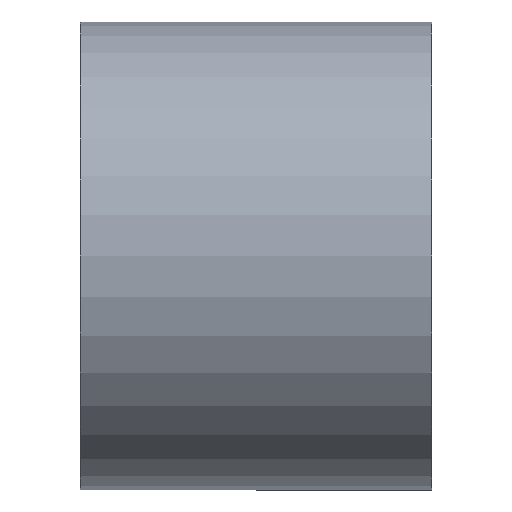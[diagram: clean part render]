
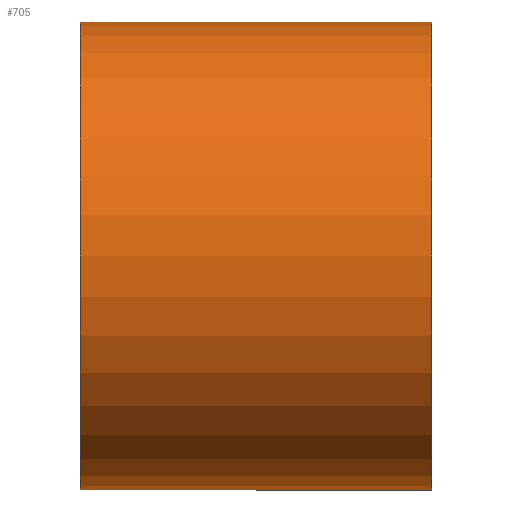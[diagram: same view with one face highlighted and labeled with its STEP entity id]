
A CAD part, front view. The second image highlights one B-rep face of the part: STEP entity #705.
In plain terms, the highlighted cylindrical face has radius 10 mm (diameter 20 mm), a partial arc.
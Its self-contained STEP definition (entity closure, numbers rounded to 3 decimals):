
#13 = EDGE_CURVE ( 'NONE', #37, #369, #277, .T. ) ;
#37 = VERTEX_POINT ( 'NONE', #113 ) ;
#38 = DIRECTION ( 'NONE',  ( 0., 0., 1. ) ) ;
#45 = CIRCLE ( 'NONE', #498, 10. ) ;
#53 = CARTESIAN_POINT ( 'NONE',  ( 7.5, 0., -10. ) ) ;
#61 = ORIENTED_EDGE ( 'NONE', *, *, #13, .T. ) ;
#100 = CARTESIAN_POINT ( 'NONE',  ( 0., 0., 10. ) ) ;
#107 = VECTOR ( 'NONE', #390, 1000. ) ;
#111 = DIRECTION ( 'NONE',  ( -1., 0., 0. ) ) ;
#113 = CARTESIAN_POINT ( 'NONE',  ( 7.5, 0., 10. ) ) ;
#152 = CIRCLE ( 'NONE', #423, 10. ) ;
#181 = DIRECTION ( 'NONE',  ( -1., 0., 0. ) ) ;
#192 = AXIS2_PLACEMENT_3D ( 'NONE', #691, #181, #694 ) ;
#194 = EDGE_CURVE ( 'NONE', #516, #37, #45, .T. ) ;
#207 = CARTESIAN_POINT ( 'NONE',  ( -7.5, 0., 0. ) ) ;
#251 = DIRECTION ( 'NONE',  ( 0., 0., 1. ) ) ;
#277 = LINE ( 'NONE', #100, #107 ) ;
#313 = CYLINDRICAL_SURFACE ( 'NONE', #192, 10. ) ;
#323 = VECTOR ( 'NONE', #111, 1000. ) ;
#324 = DIRECTION ( 'NONE',  ( -1., 0., 0. ) ) ;
#359 = ORIENTED_EDGE ( 'NONE', *, *, #473, .F. ) ;
#369 = VERTEX_POINT ( 'NONE', #374 ) ;
#374 = CARTESIAN_POINT ( 'NONE',  ( -7.5, 0., 10. ) ) ;
#390 = DIRECTION ( 'NONE',  ( -1., 0., 0. ) ) ;
#423 = AXIS2_PLACEMENT_3D ( 'NONE', #207, #324, #38 ) ;
#427 = EDGE_CURVE ( 'NONE', #432, #369, #152, .T. ) ;
#432 = VERTEX_POINT ( 'NONE', #568 ) ;
#454 = CARTESIAN_POINT ( 'NONE',  ( 0., 0., -10. ) ) ;
#473 = EDGE_CURVE ( 'NONE', #516, #432, #627, .T. ) ;
#481 = CARTESIAN_POINT ( 'NONE',  ( 7.5, 0., 0. ) ) ;
#492 = EDGE_LOOP ( 'NONE', ( #359, #651, #61, #578 ) ) ;
#498 = AXIS2_PLACEMENT_3D ( 'NONE', #481, #587, #251 ) ;
#516 = VERTEX_POINT ( 'NONE', #53 ) ;
#568 = CARTESIAN_POINT ( 'NONE',  ( -7.5, 0., -10. ) ) ;
#578 = ORIENTED_EDGE ( 'NONE', *, *, #427, .F. ) ;
#587 = DIRECTION ( 'NONE',  ( -1., 0., 0. ) ) ;
#588 = FACE_OUTER_BOUND ( 'NONE', #492, .T. ) ;
#627 = LINE ( 'NONE', #454, #323 ) ;
#651 = ORIENTED_EDGE ( 'NONE', *, *, #194, .T. ) ;
#691 = CARTESIAN_POINT ( 'NONE',  ( 0., 0., 0. ) ) ;
#694 = DIRECTION ( 'NONE',  ( 0., 0., 1. ) ) ;
#705 = ADVANCED_FACE ( 'NONE', ( #588 ), #313, .T. ) ;
